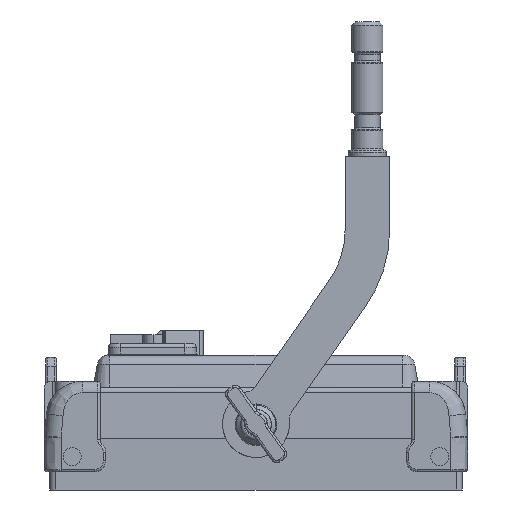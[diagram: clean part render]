
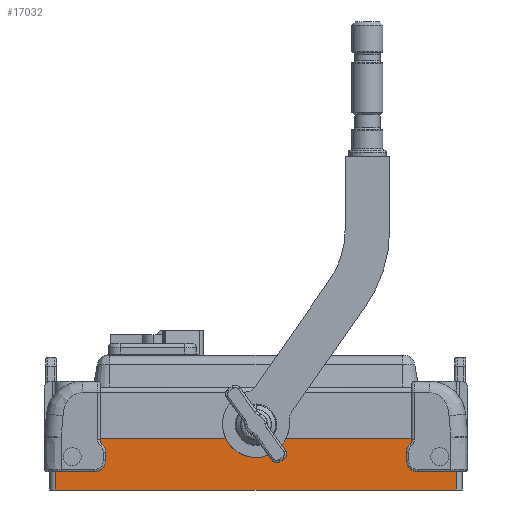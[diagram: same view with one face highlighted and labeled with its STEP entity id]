
A CAD part, front view. The second image highlights one B-rep face of the part: STEP entity #17032.
In plain terms, the highlighted planar face has unit normal (0, -1, 0).
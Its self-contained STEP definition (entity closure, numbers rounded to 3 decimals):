
#670=DIRECTION('',(-1.,0.,0.));
#671=VECTOR('',#670,360.);
#672=CARTESIAN_POINT('',(180.,-185.,-41.));
#673=LINE('',#672,#671);
#1371=DIRECTION('',(0.,0.,1.));
#1372=VECTOR('',#1371,16.4);
#1373=CARTESIAN_POINT('',(-180.,-185.,-41.));
#1374=LINE('',#1373,#1372);
#1375=DIRECTION('',(1.,0.,0.));
#1376=VECTOR('',#1375,34.981);
#1377=CARTESIAN_POINT('',(-180.,-185.,-24.6));
#1378=LINE('',#1377,#1376);
#1379=CARTESIAN_POINT('',(-145.019,-185.,-14.6));
#1380=DIRECTION('',(0.,-1.,0.));
#1381=DIRECTION('',(0.,0.,-1.));
#1382=AXIS2_PLACEMENT_3D('',#1379,#1380,#1381);
#1384=DIRECTION('',(0.,0.,1.));
#1385=VECTOR('',#1384,7.34);
#1386=CARTESIAN_POINT('',(-135.019,-185.,-14.6));
#1387=LINE('',#1386,#1385);
#1388=CARTESIAN_POINT('',(-145.019,-185.,-7.26));
#1389=DIRECTION('',(0.,-1.,0.));
#1390=DIRECTION('',(1.,0.,0.));
#1391=AXIS2_PLACEMENT_3D('',#1388,#1389,#1390);
#1393=CARTESIAN_POINT('',(-135.019,-185.,3.92));
#1394=DIRECTION('',(0.,-1.,0.));
#1395=DIRECTION('',(-1.,0.,0.));
#1396=AXIS2_PLACEMENT_3D('',#1393,#1394,#1395);
#1398=DIRECTION('',(0.,-0.002,-1.));
#1399=VECTOR('',#1398,1.727);
#1400=CARTESIAN_POINT('',(-140.019,-184.996,
5.647));
#1401=LINE('',#1400,#1399);
#1402=CARTESIAN_POINT('',(0.,-185.,18.25));
#1403=DIRECTION('',(0.,-1.,0.));
#1404=DIRECTION('',(-0.905,0.,-0.425));
#1405=AXIS2_PLACEMENT_3D('',#1402,#1403,#1404);
#1407=CARTESIAN_POINT('',(0.,-185.,18.25));
#1408=DIRECTION('',(0.,-1.,0.));
#1409=DIRECTION('',(0.,0.,-1.));
#1410=AXIS2_PLACEMENT_3D('',#1407,#1408,#1409);
#1412=DIRECTION('',(0.,-0.002,-1.));
#1413=VECTOR('',#1412,1.727);
#1414=CARTESIAN_POINT('',(140.019,-184.996,5.647));
#1415=LINE('',#1414,#1413);
#1416=CARTESIAN_POINT('',(135.019,-185.,3.92));
#1417=DIRECTION('',(0.,1.,0.));
#1418=DIRECTION('',(1.,0.,0.));
#1419=AXIS2_PLACEMENT_3D('',#1416,#1417,#1418);
#1421=CARTESIAN_POINT('',(145.019,-185.,-7.26));
#1422=DIRECTION('',(0.,1.,0.));
#1423=DIRECTION('',(-1.,0.,0.));
#1424=AXIS2_PLACEMENT_3D('',#1421,#1422,#1423);
#1426=DIRECTION('',(0.,0.,1.));
#1427=VECTOR('',#1426,7.34);
#1428=CARTESIAN_POINT('',(135.019,-185.,-14.6));
#1429=LINE('',#1428,#1427);
#1430=CARTESIAN_POINT('',(145.019,-185.,-14.6));
#1431=DIRECTION('',(0.,1.,0.));
#1432=DIRECTION('',(0.,0.,-1.));
#1433=AXIS2_PLACEMENT_3D('',#1430,#1431,#1432);
#1435=DIRECTION('',(-1.,0.,0.));
#1436=VECTOR('',#1435,34.981);
#1437=CARTESIAN_POINT('',(180.,-185.,-24.6));
#1438=LINE('',#1437,#1436);
#1439=DIRECTION('',(0.,0.,-1.));
#1440=VECTOR('',#1439,16.4);
#1441=CARTESIAN_POINT('',(180.,-185.,-24.6));
#1442=LINE('',#1441,#1440);
#5455=DIRECTION('',(-1.,0.,0.001));
#5456=VECTOR('',#5455,112.863);
#5457=CARTESIAN_POINT('',(-27.156,-185.,5.5));
#5458=LINE('',#5457,#5456);
#5463=DIRECTION('',(-1.,0.,-0.001));
#5464=VECTOR('',#5463,112.863);
#5465=CARTESIAN_POINT('',(140.019,-184.996,5.647));
#5466=LINE('',#5465,#5464);
#13531=CARTESIAN_POINT('',(0.,-185.,-11.75));
#13533=VERTEX_POINT('',#13531);
#13538=CARTESIAN_POINT('',(27.156,-185.,5.5));
#13539=VERTEX_POINT('',#13538);
#13540=CARTESIAN_POINT('',(-27.156,-185.,5.5));
#13541=VERTEX_POINT('',#13540);
#13734=CARTESIAN_POINT('',(-180.,-185.,-41.));
#13735=CARTESIAN_POINT('',(-180.,-185.,-24.6));
#13736=VERTEX_POINT('',#13734);
#13737=VERTEX_POINT('',#13735);
#13743=CARTESIAN_POINT('',(180.,-185.,-41.));
#13745=VERTEX_POINT('',#13743);
#13746=CARTESIAN_POINT('',(180.,-185.,-24.6));
#13747=VERTEX_POINT('',#13746);
#14348=CARTESIAN_POINT('',(-140.019,-184.996,
5.647));
#14349=CARTESIAN_POINT('',(-140.019,-185.,3.92));
#14350=VERTEX_POINT('',#14348);
#14351=VERTEX_POINT('',#14349);
#14352=CARTESIAN_POINT('',(-138.352,-185.,0.193));
#14353=VERTEX_POINT('',#14352);
#14354=CARTESIAN_POINT('',(-135.019,-185.,-7.26));
#14355=VERTEX_POINT('',#14354);
#14356=CARTESIAN_POINT('',(-145.019,-185.,-24.6));
#14357=CARTESIAN_POINT('',(-135.019,-185.,-14.6));
#14358=VERTEX_POINT('',#14356);
#14359=VERTEX_POINT('',#14357);
#14404=CARTESIAN_POINT('',(140.019,-184.996,
5.647));
#14405=CARTESIAN_POINT('',(140.019,-185.,3.92));
#14406=VERTEX_POINT('',#14404);
#14407=VERTEX_POINT('',#14405);
#14408=CARTESIAN_POINT('',(138.352,-185.,0.193));
#14409=VERTEX_POINT('',#14408);
#14410=CARTESIAN_POINT('',(135.019,-185.,-7.26));
#14411=VERTEX_POINT('',#14410);
#14412=CARTESIAN_POINT('',(145.019,-185.,-24.6));
#14413=CARTESIAN_POINT('',(135.019,-185.,-14.6));
#14414=VERTEX_POINT('',#14412);
#14415=VERTEX_POINT('',#14413);
#16990=CARTESIAN_POINT('',(185.,-185.,-17.));
#16991=DIRECTION('',(0.,-1.,0.));
#16992=DIRECTION('',(-1.,0.,0.));
#16993=AXIS2_PLACEMENT_3D('',#16990,#16991,#16992);
#16994=PLANE('',#16993);
#16996=ORIENTED_EDGE('',*,*,#16995,.T.);
#16998=ORIENTED_EDGE('',*,*,#16997,.T.);
#17000=ORIENTED_EDGE('',*,*,#16999,.T.);
#17002=ORIENTED_EDGE('',*,*,#17001,.T.);
#17004=ORIENTED_EDGE('',*,*,#17003,.T.);
#17006=ORIENTED_EDGE('',*,*,#17005,.F.);
#17008=ORIENTED_EDGE('',*,*,#17007,.F.);
#17010=ORIENTED_EDGE('',*,*,#17009,.F.);
#17012=ORIENTED_EDGE('',*,*,#17011,.T.);
#17014=ORIENTED_EDGE('',*,*,#17013,.T.);
#17016=ORIENTED_EDGE('',*,*,#17015,.F.);
#17018=ORIENTED_EDGE('',*,*,#17017,.T.);
#17020=ORIENTED_EDGE('',*,*,#17019,.T.);
#17022=ORIENTED_EDGE('',*,*,#17021,.F.);
#17024=ORIENTED_EDGE('',*,*,#17023,.F.);
#17026=ORIENTED_EDGE('',*,*,#17025,.F.);
#17027=ORIENTED_EDGE('',*,*,#16944,.F.);
#17028=ORIENTED_EDGE('',*,*,#16959,.T.);
#17029=ORIENTED_EDGE('',*,*,#15857,.T.);
#17030=EDGE_LOOP('',(#16996,#16998,#17000,#17002,#17004,#17006,#17008,#17010,
#17012,#17014,#17016,#17018,#17020,#17022,#17024,#17026,#17027,#17028,#17029));
#17031=FACE_OUTER_BOUND('',#17030,.F.);
#17032=ADVANCED_FACE('',(#17031),#16994,.T.);
#1383=CIRCLE('',#1382,10.);
#1392=CIRCLE('',#1391,10.);
#1397=CIRCLE('',#1396,5.);
#1406=CIRCLE('',#1405,30.);
#1411=CIRCLE('',#1410,30.);
#1420=CIRCLE('',#1419,5.);
#1425=CIRCLE('',#1424,10.);
#1434=CIRCLE('',#1433,10.);
#15857=EDGE_CURVE('',#13745,#13736,#673,.T.);
#16944=EDGE_CURVE('',#13747,#14414,#1438,.T.);
#16959=EDGE_CURVE('',#13747,#13745,#1442,.T.);
#16995=EDGE_CURVE('',#13736,#13737,#1374,.T.);
#16997=EDGE_CURVE('',#13737,#14358,#1378,.T.);
#16999=EDGE_CURVE('',#14358,#14359,#1383,.T.);
#17001=EDGE_CURVE('',#14359,#14355,#1387,.T.);
#17003=EDGE_CURVE('',#14355,#14353,#1392,.T.);
#17005=EDGE_CURVE('',#14351,#14353,#1397,.T.);
#17007=EDGE_CURVE('',#14350,#14351,#1401,.T.);
#17009=EDGE_CURVE('',#13541,#14350,#5458,.T.);
#17011=EDGE_CURVE('',#13541,#13533,#1406,.T.);
#17013=EDGE_CURVE('',#13533,#13539,#1411,.T.);
#17015=EDGE_CURVE('',#14406,#13539,#5466,.T.);
#17017=EDGE_CURVE('',#14406,#14407,#1415,.T.);
#17019=EDGE_CURVE('',#14407,#14409,#1420,.T.);
#17021=EDGE_CURVE('',#14411,#14409,#1425,.T.);
#17023=EDGE_CURVE('',#14415,#14411,#1429,.T.);
#17025=EDGE_CURVE('',#14414,#14415,#1434,.T.);
